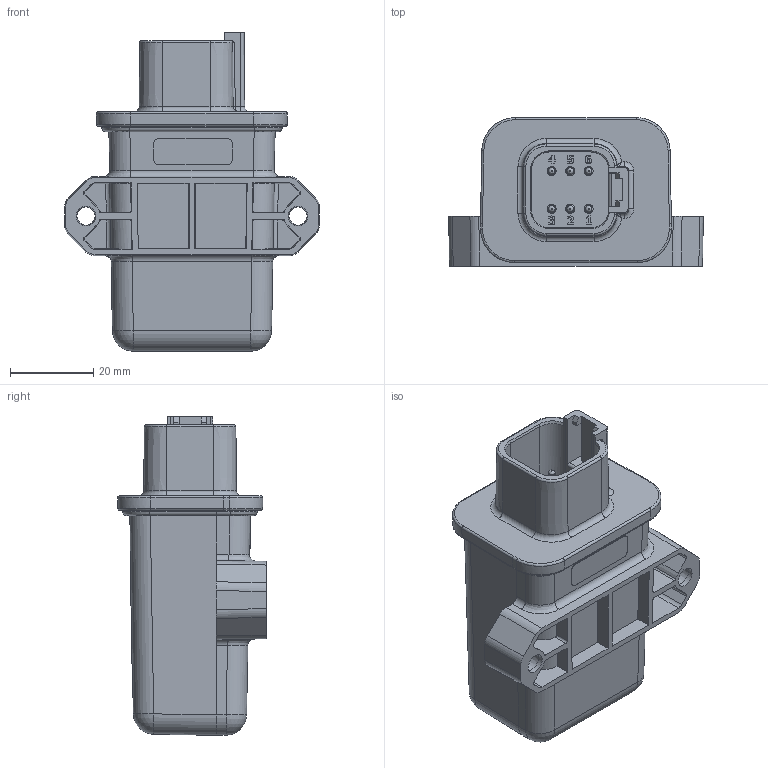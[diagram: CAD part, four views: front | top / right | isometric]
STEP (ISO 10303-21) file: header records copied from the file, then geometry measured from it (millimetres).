
FILE_DESCRIPTION(/* description */ (''),/* implementation_level */ '2;1');
FILE_NAME(/* name */ 'S:\Projects\LIN-CAN-LW, AX140600LW, Proj_22015\UNIT ASSEMBLY\RELEASED\P1\generic 6 pin LW.stp',/* time_stamp */ '2023-07-13T12:44:06-04:00',/* author */ ('tfisher'),/* organization */ (''),/* preprocessor_version */ 'ST-DEVELOPER v18.1',/* originating_system */ 'Autodesk Inventor 2021',/* authorisation */ '');
FILE_SCHEMA (('AUTOMOTIVE_DESIGN { 1 0 10303 214 3 1 1 }'));
Products named in the file (1): generic 6 pin LW
Bounding box: 61.29 x 35.75 x 76.7 mm (x, y, z)
Volume: 22920 mm3; surface area: 26660.1 mm2
Topology: 1 solids, 1 shells, 1759 faces, 4410 edges, 2751 vertices
Faces by surface type: plane 975, bspline 378, cylinder 295, sphere 50, torus 32, cone 29
Full cylindrical faces by diameter (mm): 1.5 x2, 1.562 x18, 1.6 x6, 1.8 x2, 2.184 x6, 2.5 x3, 4.75 x2
Entity records: 70288 total; most frequent: CARTESIAN_POINT 28341, ORIENTED_EDGE 8800, DIRECTION 7417, EDGE_CURVE 4400, LINE 2775, VECTOR 2775, VERTEX_POINT 2751, AXIS2_PLACEMENT_3D 2321
